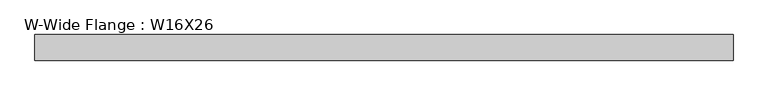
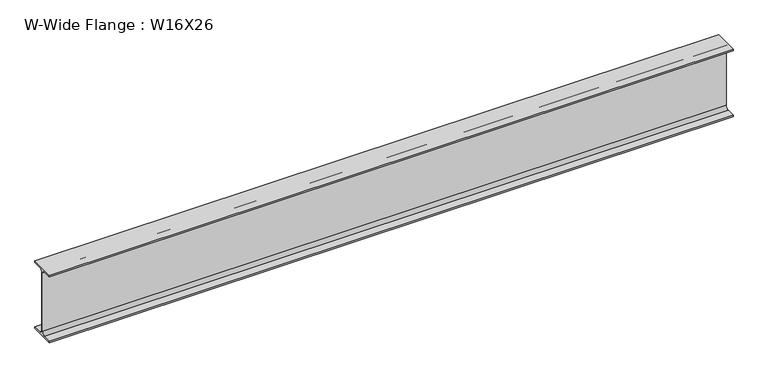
"""IFC4 building model written with IfcOpenShell, lengths in millimetres: beam geometry, W-Wide Flange : W16X26."""

from ifc_helpers import new_model, si_unit, point, frame, frame_2d, origin, place, context, project, spatial, polyline, circle_curve, trimmed, segment, composite_curve, outline, extrude, source, transform, mapped, element, save


def w_wide_flange_w16x26_0c83cf25(model_context):
    return source(origin(), model_context, "Body", "SweptSolid", [
        extrude(outline(composite_curve([segment(polyline([(69.85, -190.5496094), (69.85, -199.2808594), (-69.85, -199.2808594), (-69.85, -190.5496094), (-21.43125, -190.5496094)]), True, "CONTINUOUS"), segment(trimmed(circle_curve(frame_2d((-21.43125, -172.2933594)), 18.25625), [point((-21.43125, -190.5496094))], [point((-3.175, -172.2933594))], True, "CARTESIAN"), True, "CONTINUOUS"), segment(polyline([(-3.175, -172.2933594), (-3.175, 172.2933594)]), True, "CONTINUOUS"), segment(trimmed(circle_curve(frame_2d((-21.43125, 172.2933594)), 18.25625), [point((-3.175, 172.2933594))], [point((-21.43125, 190.5496094))], True, "CARTESIAN"), True, "CONTINUOUS"), segment(polyline([(-21.43125, 190.5496094), (-69.85, 190.5496094), (-69.85, 199.2808594), (69.85, 199.2808594), (69.85, 190.5496094), (21.43125, 190.5496094)]), True, "CONTINUOUS"), segment(trimmed(circle_curve(frame_2d((21.43125, 172.2933594)), 18.25625), [point((21.43125, 190.5496094))], [point((3.175, 172.2933594))], True, "CARTESIAN"), True, "CONTINUOUS"), segment(polyline([(3.175, 172.2933594), (3.175, -172.2933594)]), True, "CONTINUOUS"), segment(trimmed(circle_curve(frame_2d((21.43125, -172.2933594)), 18.25625), [point((3.175, -172.2933594))], [point((21.43125, -190.5496094))], True, "CARTESIAN"), True, "CONTINUOUS"), segment(polyline([(21.43125, -190.5496094), (69.85, -190.5496094)]), True, "CONTINUOUS")], self_intersect=False)), frame((-1908.0757812, 0.0, 0.0), z_axis=(1.0, 0.0, 0.0), x_axis=(0.0, 1.0, 0.0)), (0.0, 0.0, 1.0), 3810.0),
    ])


if __name__ == "__main__":
    model = new_model("IFC4")
    model_context = context("Model", 3, world=origin())
    ifc_project = project(units=[si_unit("LENGTHUNIT", "METRE", prefix="MILLI")], contexts=[model_context])
    site = spatial("IfcSite", under=ifc_project)
    building = spatial("IfcBuilding", under=site)
    placement = place(None, origin())
    w_wide_flange_w16x26_shape = w_wide_flange_w16x26_0c83cf25(model_context)
    element("IfcBeam", 1, ObjectType="W-Wide Flange : W16X26", at=placement, inside=building, context=model_context, shape_type="MappedRepresentation", body=[
        mapped(w_wide_flange_w16x26_shape, transform((0.0, 0.0, 0.0), x_axis=(1.0, 0.0, 0.0), y_axis=(0.0, 1.0, 0.0), z_axis=(0.0, 0.0, 1.0))),
    ])
    save(model, "model.ifc")
